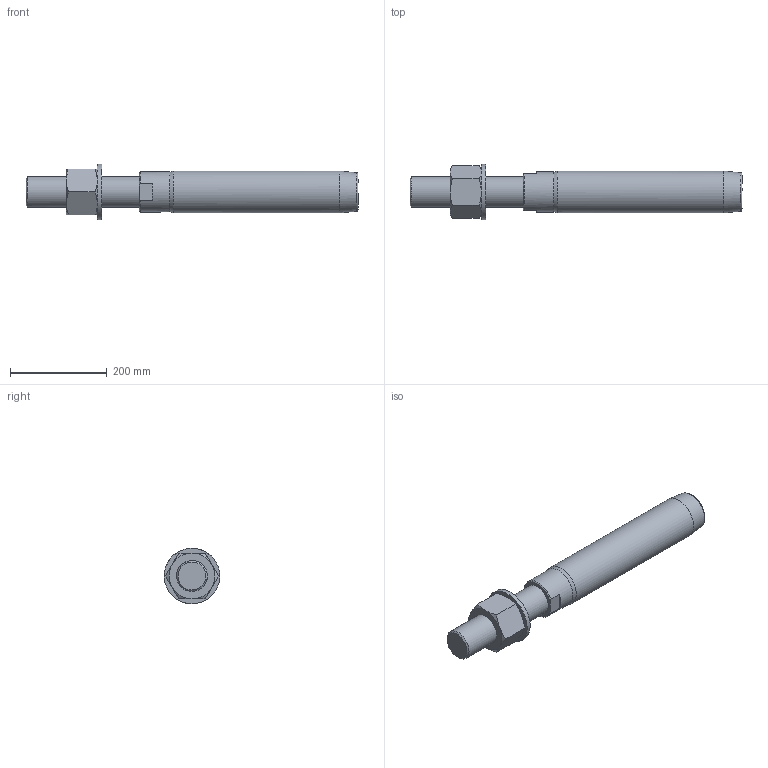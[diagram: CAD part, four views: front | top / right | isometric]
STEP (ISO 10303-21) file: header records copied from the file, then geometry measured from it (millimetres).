
FILE_DESCRIPTION(/* description */ (''),/* implementation_level */ '2;1');
FILE_NAME(/* name */ 'FLT 42_1,4462',/* time_stamp */ '2023-05-23T15:58:09+02:00',/* author */ (''),/* organization */ (''),/* preprocessor_version */ 'ST-DEVELOPER v16.5',/* originating_system */ 'Rhino 7.22',/* authorisation */ '');
FILE_SCHEMA (('CONFIG_CONTROL_DESIGN'));
Length unit declared in the file: millimetre
Products named in the file (1): Document
Bounding box: 688 x 114.99 x 114.97 mm (x, y, z)
Volume: 3779069.1 mm3; surface area: 240195.8 mm2
Topology: 3 solids, 3 shells, 43 faces, 103 edges, 67 vertices
Faces by surface type: bspline 20, plane 17, cylinder 6
Full cylindrical faces by diameter (mm): 57.505 x1, 64 x1, 66 x1, 83 x1, 87 x1, 115 x1
Entity records: 1586 total; most frequent: CARTESIAN_POINT 881, ORIENTED_EDGE 206, EDGE_CURVE 103, VERTEX_POINT 67, EDGE_LOOP 48, ADVANCED_FACE 43, FACE_OUTER_BOUND 43, DIRECTION 27
